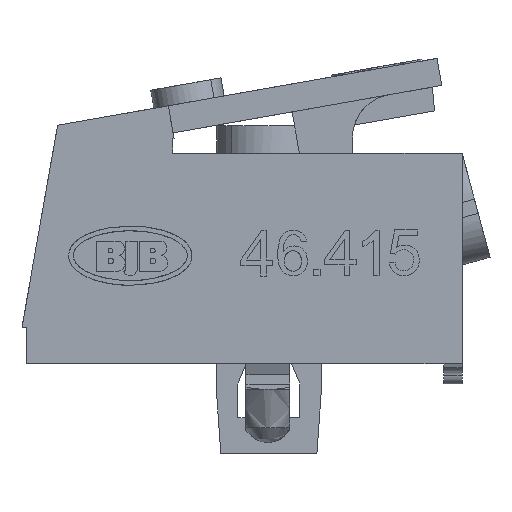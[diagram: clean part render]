
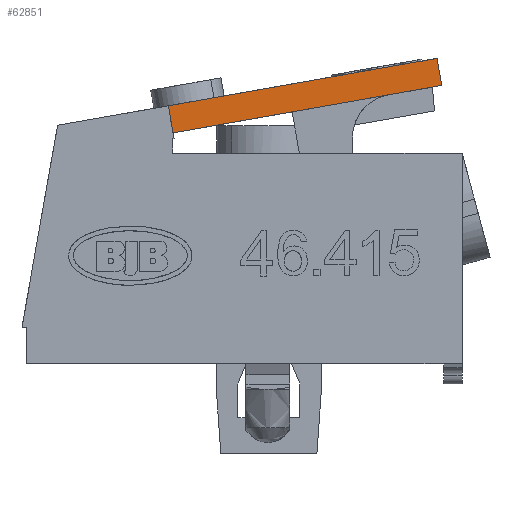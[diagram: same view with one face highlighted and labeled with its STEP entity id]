
A CAD part, left-side view. The second image highlights one B-rep face of the part: STEP entity #62851.
In plain terms, the highlighted planar face has unit normal (-1, 0, 0).
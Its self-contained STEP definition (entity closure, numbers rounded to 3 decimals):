
#18511=CARTESIAN_POINT(' ',(-23.3,15.78,12.613));
#18512=VERTEX_POINT(' ',#18511);
#18526=CARTESIAN_POINT(' ',(-23.3,16.04,14.09));
#18531=DIRECTION(' ',(0.,-0.174,-0.985));
#18536=VECTOR(' ',#18531,1.);
#18541=LINE('',#18526,#18536);
#18546=CARTESIAN_POINT(' ',(-23.3,16.04,14.09));
#18547=VERTEX_POINT(' ',#18546);
#18551=EDGE_CURVE(' ',#18547,#18512,#18541,.T.);
#19671=CARTESIAN_POINT(' ',(-23.3,1.366,16.678));
#19676=DIRECTION(' ',(0.,0.985,-0.174));
#19681=VECTOR(' ',#19676,1.);
#19686=LINE('',#19671,#19681);
#19691=CARTESIAN_POINT(' ',(-23.3,1.366,16.678));
#19692=VERTEX_POINT(' ',#19691);
#19696=EDGE_CURVE(' ',#19692,#18547,#19686,.T.);
#62376=CARTESIAN_POINT(' ',(-23.3,1.106,15.201));
#62377=VERTEX_POINT(' ',#62376);
#62391=CARTESIAN_POINT(' ',(-23.3,15.78,12.613));
#62396=DIRECTION(' ',(0.,-0.985,0.174));
#62401=VECTOR(' ',#62396,1.);
#62406=LINE('',#62391,#62401);
#62411=EDGE_CURVE(' ',#18512,#62377,#62406,.T.);
#62771=CARTESIAN_POINT(' ',(-23.3,1.106,12.613));
#62776=DIRECTION(' ',(-1.,0.,0.));
#62781=DIRECTION(' ',(0.,0.,1.));
#62786=AXIS2_PLACEMENT_3D(' ',#62771,#62776,#62781);
#62791=PLANE(' ',#62786);
#62796=ORIENTED_EDGE(' ',*,*,#19696,.T.);
#62801=ORIENTED_EDGE(' ',*,*,#18551,.T.);
#62806=ORIENTED_EDGE(' ',*,*,#62411,.T.);
#62811=CARTESIAN_POINT(' ',(-23.3,1.106,15.201));
#62816=DIRECTION(' ',(0.,0.174,0.985));
#62821=VECTOR(' ',#62816,1.);
#62826=LINE('',#62811,#62821);
#62831=EDGE_CURVE(' ',#62377,#19692,#62826,.T.);
#62836=ORIENTED_EDGE(' ',*,*,#62831,.T.);
#62841=EDGE_LOOP(' ',(#62796,#62801,#62806,#62836));
#62846=FACE_OUTER_BOUND(' ',#62841,.T.);
#62851=ADVANCED_FACE('',(#62846),#62791,.T.);
